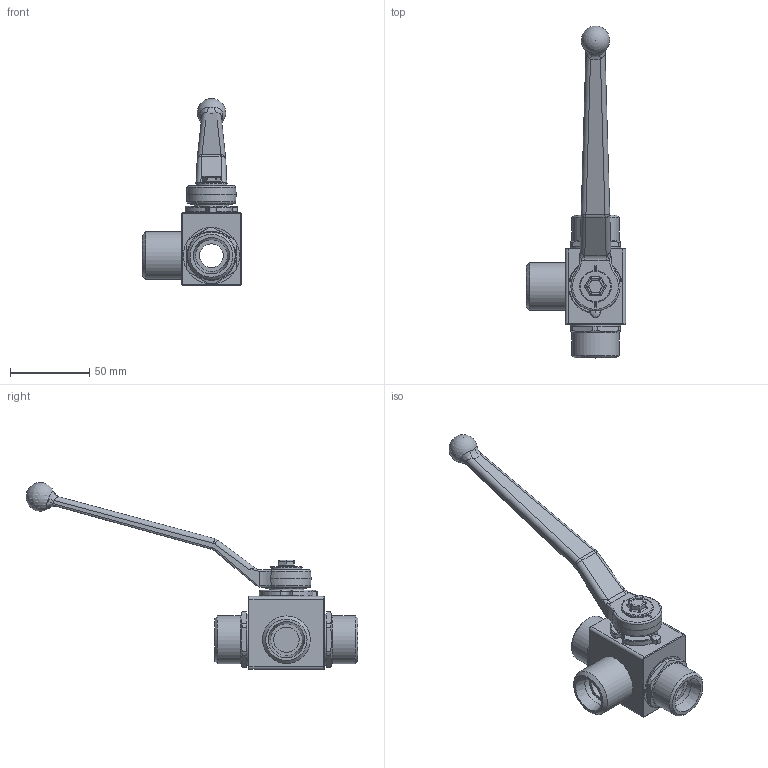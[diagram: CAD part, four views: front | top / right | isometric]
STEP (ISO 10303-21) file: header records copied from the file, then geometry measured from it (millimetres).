
FILE_DESCRIPTION( ( 'Unknown' ), '1' );
FILE_NAME( 'H:/PISTER/3D-MODELLE/BK3 stp/BK3 DN16 20S.stp', 'Unknown', ( 'Unknown' ), ( 'Unknown' ), 'PSStep 14.0', 'Unknown', ' ' );
FILE_SCHEMA( ( 'AUTOMOTIVE_DESIGN { 1 0 10303 214 1 1 1 1 }' ) );
Length unit declared in the file: millimetre
Products named in the file (11): Assem1; 10-016-001; 56-032-078-oa5; 09-12-001; 58-28740-05-oa6; Griff_SW12; 58-0933-147; 04-016-056-oa7; 06-016-003-oa10; 01-016-012-oa11; 04-016-033-oa12
Assembly tree (10 placements, depth 2):
  Assem1
    10-016-001
    56-032-078-oa5
    09-12-001
    58-28740-05-oa6
    Griff_SW12
    58-0933-147
    04-016-056-oa7
    06-016-003-oa10
    01-016-012-oa11
    04-016-033-oa12
Bounding box: 62.5 x 208.93 x 117.7 mm (x, y, z)
Volume: 71684.6 mm3; surface area: 45644 mm2
Topology: 10 solids, 10 shells, 383 faces, 948 edges, 573 vertices
Faces by surface type: plane 135, cylinder 132, torus 42, cone 32, bspline 25, sphere 17
Full cylindrical faces by diameter (mm): 4.917 x1, 5.98 x1, 6 x1, 6.5 x1, 15 x2, 16 x1, 18 x2, 18.2 x1, 20 x4, 21.8 x1, 30 x4, 32 x2, 35.5 x2
Entity records: 15487 total; most frequent: CARTESIAN_POINT 3638, DIRECTION 1859, ORIENTED_EDGE 1708, EDGE_CURVE 854, AXIS2_PLACEMENT_3D 758, VERTEX_POINT 554, EDGE_LOOP 464, FACE_OUTER_BOUND 417
